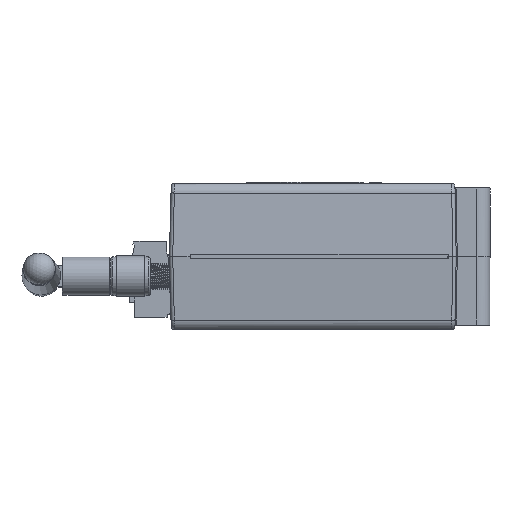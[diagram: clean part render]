
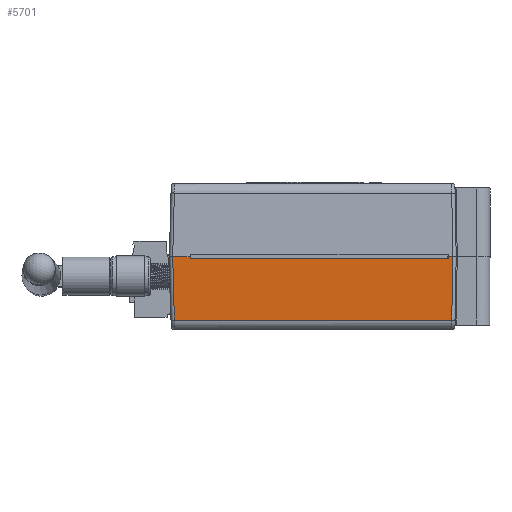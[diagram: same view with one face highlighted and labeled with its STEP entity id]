
A CAD part, left-side view. The second image highlights one B-rep face of the part: STEP entity #5701.
In plain terms, the highlighted planar face has unit normal (-0.999, 0, -0.052).
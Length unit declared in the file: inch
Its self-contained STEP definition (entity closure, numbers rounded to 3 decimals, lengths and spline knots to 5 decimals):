
#3738=CARTESIAN_POINT('',(-1.60025,1.77981,-0.15973));
#3739=VERTEX_POINT('',#3738);
#3774=CARTESIAN_POINT('',(-1.63213,1.79573,0.4485));
#3775=VERTEX_POINT('',#3774);
#3790=CARTESIAN_POINT('',(-1.60025,1.77981,-0.15973));
#3791=DIRECTION('',(-0.052,0.026,0.998));
#3792=VECTOR('',#3791,0.60928);
#3793=LINE('',#3790,#3792);
#3794=EDGE_CURVE('',#3739,#3775,#3793,.T.);
#4131=CARTESIAN_POINT('',(-1.60025,-0.87685,-0.15973));
#4132=VERTEX_POINT('',#4131);
#4163=CARTESIAN_POINT('',(-1.63213,-0.88747,0.4485));
#4164=VERTEX_POINT('',#4163);
#4174=CARTESIAN_POINT('',(-1.63213,-0.88747,0.4485));
#4175=DIRECTION('',(0.052,0.017,-0.998));
#4176=VECTOR('',#4175,0.60916);
#4177=LINE('',#4174,#4176);
#4178=EDGE_CURVE('',#4164,#4132,#4177,.T.);
#4203=CARTESIAN_POINT('',(-1.60025,-0.87685,-0.15973));
#4204=DIRECTION('',(0.0,1.0,0.0));
#4205=VECTOR('',#4204,2.65666);
#4206=LINE('',#4203,#4205);
#4207=EDGE_CURVE('',#4132,#3739,#4206,.T.);
#5653=CARTESIAN_POINT('',(-1.66834,1.45531,1.13944));
#5654=DIRECTION('',(-0.999,0.,-0.052));
#5655=DIRECTION('',(0.0,1.0,0.0));
#5656=AXIS2_PLACEMENT_3D('',#5653,#5654,#5655);
#5657=PLANE('',#5656);
#5658=ORIENTED_EDGE('',*,*,#3794,.F.);
#5659=ORIENTED_EDGE('',*,*,#4207,.F.);
#5660=ORIENTED_EDGE('',*,*,#4178,.F.);
#5661=CARTESIAN_POINT('',(-1.63213,-0.84855,0.4485));
#5662=VERTEX_POINT('',#5661);
#5663=CARTESIAN_POINT('',(-1.63213,-0.88747,0.4485));
#5664=DIRECTION('',(0.0,1.0,0.0));
#5665=VECTOR('',#5664,0.03892);
#5666=LINE('',#5663,#5665);
#5667=EDGE_CURVE('',#5662,#4164,#5666,.F.);
#5668=ORIENTED_EDGE('',*,*,#5667,.F.);
#5669=CARTESIAN_POINT('',(-1.63108,-0.84502,0.4285));
#5670=VERTEX_POINT('',#5669);
#5671=CARTESIAN_POINT('',(-1.63108,-0.84502,0.4285));
#5672=DIRECTION('',(-0.052,-0.173,0.983));
#5673=VECTOR('',#5672,0.02034);
#5674=LINE('',#5671,#5673);
#5675=EDGE_CURVE('',#5670,#5662,#5674,.T.);
#5676=ORIENTED_EDGE('',*,*,#5675,.F.);
#5677=CARTESIAN_POINT('',(-1.63108,1.62578,0.4285));
#5678=VERTEX_POINT('',#5677);
#5679=CARTESIAN_POINT('',(-1.63108,1.62578,0.4285));
#5680=DIRECTION('',(0.0,-1.0,0.0));
#5681=VECTOR('',#5680,2.4708);
#5682=LINE('',#5679,#5681);
#5683=EDGE_CURVE('',#5678,#5670,#5682,.T.);
#5684=ORIENTED_EDGE('',*,*,#5683,.F.);
#5685=CARTESIAN_POINT('',(-1.63213,1.62931,0.4485));
#5686=VERTEX_POINT('',#5685);
#5687=CARTESIAN_POINT('',(-1.63108,1.62578,0.4285));
#5688=DIRECTION('',(-0.052,0.173,0.983));
#5689=VECTOR('',#5688,0.02034);
#5690=LINE('',#5687,#5689);
#5691=EDGE_CURVE('',#5678,#5686,#5690,.T.);
#5692=ORIENTED_EDGE('',*,*,#5691,.T.);
#5693=CARTESIAN_POINT('',(-1.63213,1.62931,0.4485));
#5694=DIRECTION('',(0.0,1.0,0.0));
#5695=VECTOR('',#5694,0.16643);
#5696=LINE('',#5693,#5695);
#5697=EDGE_CURVE('',#5686,#3775,#5696,.T.);
#5698=ORIENTED_EDGE('',*,*,#5697,.T.);
#5699=EDGE_LOOP('',(#5658,#5659,#5660,#5668,#5676,#5684,#5692,#5698));
#5700=FACE_OUTER_BOUND('',#5699,.T.);
#5701=ADVANCED_FACE('',(#5700),#5657,.T.);
